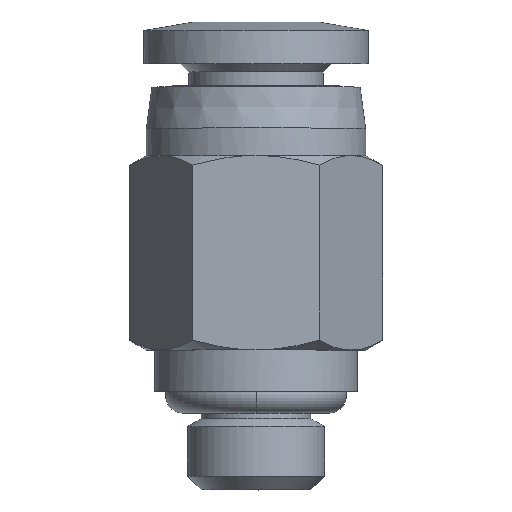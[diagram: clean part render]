
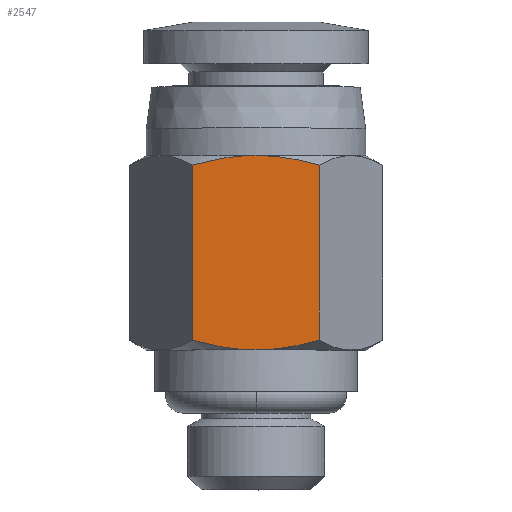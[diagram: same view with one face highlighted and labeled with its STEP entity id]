
A CAD part, top view. The second image highlights one B-rep face of the part: STEP entity #2547.
In plain terms, the highlighted planar face has unit normal (0, 0, 1).
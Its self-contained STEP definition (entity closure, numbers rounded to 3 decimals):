
#29 = VERTEX_POINT ( 'NONE', #75 ) ;
#41 = CARTESIAN_POINT ( 'NONE',  ( -1.603, 12.022, 4. ) ) ;
#75 = CARTESIAN_POINT ( 'NONE',  ( 0., 12.2, 4. ) ) ;
#136 = CARTESIAN_POINT ( 'NONE',  ( -2.309, 5.457, 4. ) ) ;
#261 = VERTEX_POINT ( 'NONE', #2898 ) ;
#296 = CARTESIAN_POINT ( 'NONE',  ( -2.103, 11.902, 4. ) ) ;
#381 = CARTESIAN_POINT ( 'NONE',  ( -1.49, 5.246, 4. ) ) ;
#387 = VERTEX_POINT ( 'NONE', #2214 ) ;
#393 = CARTESIAN_POINT ( 'NONE',  ( 1.49, 5.246, 4. ) ) ;
#400 = EDGE_CURVE ( 'NONE', #29, #562, #1637, .T. ) ;
#479 = CARTESIAN_POINT ( 'NONE',  ( 2.309, 5.457, 4. ) ) ;
#491 = VERTEX_POINT ( 'NONE', #647 ) ;
#502 = EDGE_CURVE ( 'NONE', #491, #2692, #705, .T. ) ;
#508 = CARTESIAN_POINT ( 'NONE',  ( 2.309, 11.843, 4. ) ) ;
#515 = CARTESIAN_POINT ( 'NONE',  ( -0.373, 12.2, 4. ) ) ;
#555 = B_SPLINE_CURVE_WITH_KNOTS ( 'NONE', 3,
 ( #2215, #2999, #1417, #136 ),
 .UNSPECIFIED., .F., .F.,
 ( 4, 4 ),
 ( 0., 1. ),
 .UNSPECIFIED. ) ;
#562 = VERTEX_POINT ( 'NONE', #508 ) ;
#621 = ORIENTED_EDGE ( 'NONE', *, *, #1494, .T. ) ;
#647 = CARTESIAN_POINT ( 'NONE',  ( -2.309, 5.457, 4. ) ) ;
#660 = CARTESIAN_POINT ( 'NONE',  ( 0.364, 5.1, 4. ) ) ;
#676 = CARTESIAN_POINT ( 'NONE',  ( -1.889, 5.336, 4. ) ) ;
#705 = B_SPLINE_CURVE_WITH_KNOTS ( 'NONE', 3,
 ( #2219, #676, #381, #2491, #1202, #1406 ),
 .UNSPECIFIED., .F., .F.,
 ( 4, 2, 4 ),
 ( 0., 0.5, 1. ),
 .UNSPECIFIED. ) ;
#707 = CARTESIAN_POINT ( 'NONE',  ( 2.309, 11.843, 4. ) ) ;
#755 = CARTESIAN_POINT ( 'NONE',  ( -2.309, 11.843, 4. ) ) ;
#790 = EDGE_CURVE ( 'NONE', #387, #29, #2345, .T. ) ;
#872 = CARTESIAN_POINT ( 'NONE',  ( 1.018, 12.126, 4. ) ) ;
#890 = CARTESIAN_POINT ( 'NONE',  ( 0., 5.1, 4. ) ) ;
#988 = CARTESIAN_POINT ( 'NONE',  ( 2.309, 7.586, 4. ) ) ;
#994 = ORIENTED_EDGE ( 'NONE', *, *, #502, .T. ) ;
#1025 = CARTESIAN_POINT ( 'NONE',  ( 2.309, 9.714, 4. ) ) ;
#1028 = CARTESIAN_POINT ( 'NONE',  ( -1.901, 11.955, 4. ) ) ;
#1041 = EDGE_CURVE ( 'NONE', #562, #261, #2189, .T. ) ;
#1078 = CARTESIAN_POINT ( 'NONE',  ( -1.16, 12.105, 4. ) ) ;
#1169 = CARTESIAN_POINT ( 'NONE',  ( 0., 12.2, 4. ) ) ;
#1183 = CARTESIAN_POINT ( 'NONE',  ( 0.37, 12.193, 4. ) ) ;
#1197 = CARTESIAN_POINT ( 'NONE',  ( 1.504, 12.052, 4. ) ) ;
#1199 = CARTESIAN_POINT ( 'NONE',  ( 2.309, 5.457, 4. ) ) ;
#1202 = CARTESIAN_POINT ( 'NONE',  ( -0.364, 5.1, 4. ) ) ;
#1332 = ORIENTED_EDGE ( 'NONE', *, *, #2826, .T. ) ;
#1406 = CARTESIAN_POINT ( 'NONE',  ( 0., 5.1, 4. ) ) ;
#1417 = CARTESIAN_POINT ( 'NONE',  ( -2.309, 7.586, 4. ) ) ;
#1418 = CARTESIAN_POINT ( 'NONE',  ( 1.889, 5.336, 4. ) ) ;
#1450 = CARTESIAN_POINT ( 'NONE',  ( 0.925, 12.139, 4. ) ) ;
#1494 = EDGE_CURVE ( 'NONE', #2692, #261, #3088, .T. ) ;
#1637 = B_SPLINE_CURVE_WITH_KNOTS ( 'NONE', 3,
 ( #1169, #2471, #1183, #3261, #2998, #2744, #1450, #872, #1895, #1197, #3032, #707 ),
 .UNSPECIFIED., .F., .F.,
 ( 4, 2, 2, 2, 2, 4 ),
 ( 0., 0.25, 0.375, 0.437, 0.5, 1. ),
 .UNSPECIFIED. ) ;
#1735 = EDGE_LOOP ( 'NONE', ( #1332, #994, #621, #3082, #2967, #2337 ) ) ;
#1765 = CARTESIAN_POINT ( 'NONE',  ( -1.21, 12.097, 4. ) ) ;
#1776 = CARTESIAN_POINT ( 'NONE',  ( 0., 5.1, 4. ) ) ;
#1780 = CARTESIAN_POINT ( 'NONE',  ( -1.505, 12.043, 4. ) ) ;
#1811 = CARTESIAN_POINT ( 'NONE',  ( -1.308, 12.08, 4. ) ) ;
#1895 = CARTESIAN_POINT ( 'NONE',  ( 1.064, 12.12, 4. ) ) ;
#2020 = AXIS2_PLACEMENT_3D ( 'NONE', #1776, #2323, #2305 ) ;
#2050 = CARTESIAN_POINT ( 'NONE',  ( -0.735, 12.171, 4. ) ) ;
#2067 = CARTESIAN_POINT ( 'NONE',  ( 0., 12.2, 4. ) ) ;
#2189 = B_SPLINE_CURVE_WITH_KNOTS ( 'NONE', 3,
 ( #3076, #1025, #988, #479 ),
 .UNSPECIFIED., .F., .F.,
 ( 4, 4 ),
 ( 0., 1. ),
 .UNSPECIFIED. ) ;
#2214 = CARTESIAN_POINT ( 'NONE',  ( -2.309, 11.843, 4. ) ) ;
#2215 = CARTESIAN_POINT ( 'NONE',  ( -2.309, 11.843, 4. ) ) ;
#2219 = CARTESIAN_POINT ( 'NONE',  ( -2.309, 5.457, 4. ) ) ;
#2255 = PLANE ( 'NONE',  #2020 ) ;
#2305 = DIRECTION ( 'NONE',  ( 1., 0., 0. ) ) ;
#2323 = DIRECTION ( 'NONE',  ( 0., 0., 1. ) ) ;
#2337 = ORIENTED_EDGE ( 'NONE', *, *, #790, .F. ) ;
#2345 = B_SPLINE_CURVE_WITH_KNOTS ( 'NONE', 3,
 ( #755, #296, #1028, #41, #1780, #3357, #1811, #1765, #1078, #2050, #515, #2067 ),
 .UNSPECIFIED., .F., .F.,
 ( 4, 2, 2, 2, 2, 4 ),
 ( 0., 0.25, 0.375, 0.437, 0.5, 1. ),
 .UNSPECIFIED. ) ;
#2407 = CARTESIAN_POINT ( 'NONE',  ( 0., 5.1, 4. ) ) ;
#2471 = CARTESIAN_POINT ( 'NONE',  ( 0.186, 12.2, 4. ) ) ;
#2491 = CARTESIAN_POINT ( 'NONE',  ( -0.735, 5.129, 4. ) ) ;
#2547 = ADVANCED_FACE ( 'NONE', ( #2562 ), #2255, .T. ) ;
#2562 = FACE_OUTER_BOUND ( 'NONE', #1735, .T. ) ;
#2692 = VERTEX_POINT ( 'NONE', #2407 ) ;
#2744 = CARTESIAN_POINT ( 'NONE',  ( 0.878, 12.145, 4. ) ) ;
#2826 = EDGE_CURVE ( 'NONE', #387, #491, #555, .T. ) ;
#2898 = CARTESIAN_POINT ( 'NONE',  ( 2.309, 5.457, 4. ) ) ;
#2955 = CARTESIAN_POINT ( 'NONE',  ( 0.735, 5.129, 4. ) ) ;
#2967 = ORIENTED_EDGE ( 'NONE', *, *, #400, .F. ) ;
#2998 = CARTESIAN_POINT ( 'NONE',  ( 0.739, 12.162, 4. ) ) ;
#2999 = CARTESIAN_POINT ( 'NONE',  ( -2.309, 9.714, 4. ) ) ;
#3032 = CARTESIAN_POINT ( 'NONE',  ( 1.896, 11.962, 4. ) ) ;
#3076 = CARTESIAN_POINT ( 'NONE',  ( 2.309, 11.843, 4. ) ) ;
#3082 = ORIENTED_EDGE ( 'NONE', *, *, #1041, .F. ) ;
#3088 = B_SPLINE_CURVE_WITH_KNOTS ( 'NONE', 3,
 ( #890, #660, #2955, #393, #1418, #1199 ),
 .UNSPECIFIED., .F., .F.,
 ( 4, 2, 4 ),
 ( 0., 0.5, 1. ),
 .UNSPECIFIED. ) ;
#3261 = CARTESIAN_POINT ( 'NONE',  ( 0.646, 12.171, 4. ) ) ;
#3357 = CARTESIAN_POINT ( 'NONE',  ( -1.357, 12.071, 4. ) ) ;
